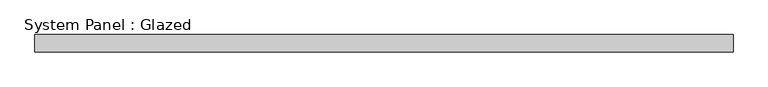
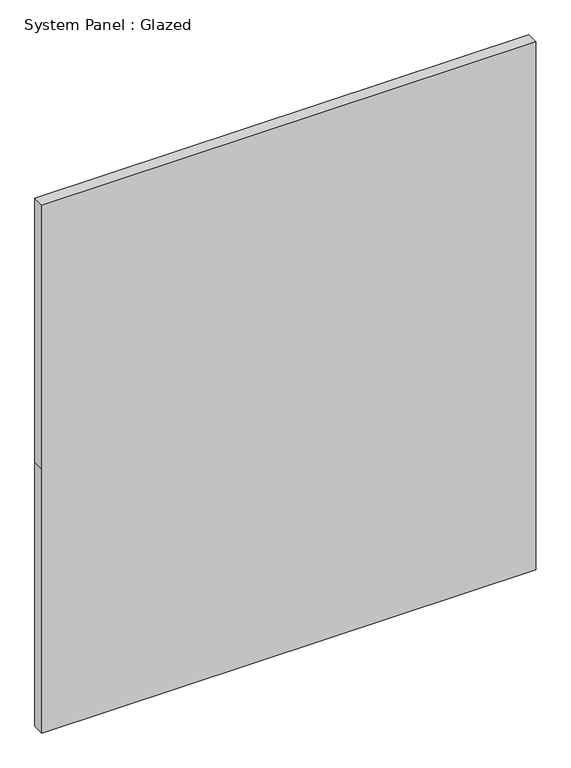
"""IFC4 building model written with IfcOpenShell, lengths in millimetres: plate geometry, System Panel : Glazed."""

from ifc_helpers import new_model, si_unit, frame, origin, place, context, project, spatial, polyline, outline, extrude, source, transform, mapped, element, save


def system_panel_glazed_3e8f1edd(model_context):
    return source(origin(), model_context, "Body", "SweptSolid", [
        extrude(outline(polyline([(0.0, -511.4925), (0.0, 511.4925), (577.85, 511.4925), (1155.7, 511.4925), (1155.7, -511.4925), (577.85, -511.4925), (0.0, -511.4925)])), frame((0.0, -44.45, 0.0), z_axis=(0.0, 1.0, 0.0), x_axis=(0.0, 0.0, 1.0)), (0.0, 0.0, 1.0), 25.4),
    ])


if __name__ == "__main__":
    model = new_model("IFC4")
    model_context = context("Model", 3, world=origin())
    ifc_project = project(units=[si_unit("LENGTHUNIT", "METRE", prefix="MILLI")], contexts=[model_context])
    site = spatial("IfcSite", under=ifc_project)
    building = spatial("IfcBuilding", under=site)
    placement = place(None, origin())
    system_panel_glazed_shape = system_panel_glazed_3e8f1edd(model_context)
    element("IfcPlate", 1, ObjectType="System Panel : Glazed", at=placement, inside=building, context=model_context, shape_type="MappedRepresentation", body=[
        mapped(system_panel_glazed_shape, transform((0.0, 0.0, 0.0), x_axis=(1.0, 0.0, 0.0), y_axis=(0.0, 1.0, 0.0), z_axis=(0.0, 0.0, 1.0))),
    ])
    save(model, "model.ifc")
